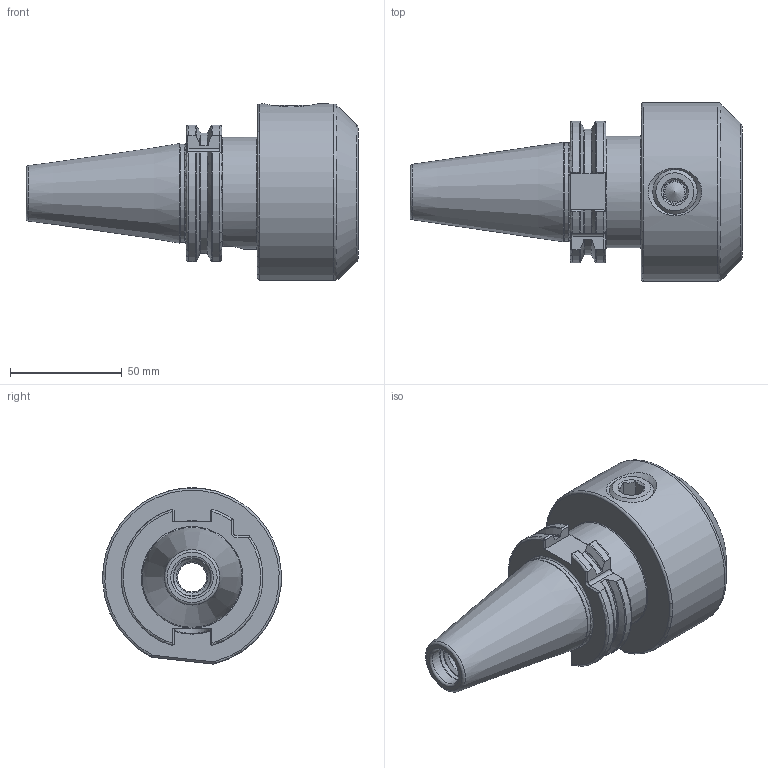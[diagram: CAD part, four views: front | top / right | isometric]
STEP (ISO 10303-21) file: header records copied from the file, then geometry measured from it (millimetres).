
FILE_DESCRIPTION(/* description */ (''),/* implementation_level */ '2;1');
FILE_NAME(/* name */ 'I:\00.2022最新版图纸\SLA---侧固式铣刀柄\侧固刀柄三维模型\SK40-SLA40-80.stp',/* time_stamp */ '2022-07-26T14:02:30+08:00',/* author */ ('Administrator'),/* organization */ (''),/* preprocessor_version */ 'ST-DEVELOPER v18.1',/* originating_system */ 'Autodesk Inventor 2022',/* authorisation */ '');
FILE_SCHEMA (('AUTOMOTIVE_DESIGN { 1 0 10303 214 3 1 1 }'));
Length unit declared in the file: millimetre
Products named in the file (3): SK40-SLA40-80; SK40-SLA40-80_1; M20x2x20
Assembly tree (2 placements, depth 2):
  SK40-SLA40-80
    SK40-SLA40-80_1
    M20x2x20
Bounding box: 148.4 x 79.83 x 78.79 mm (x, y, z)
Volume: 252423.6 mm3; surface area: 49383.8 mm2
Topology: 2 solids, 2 shells, 153 faces, 401 edges, 254 vertices
Faces by surface type: plane 59, torus 28, cylinder 25, cone 23, bspline 18
Full cylindrical faces by diameter (mm): 9 x1, 10 x1, 13 x1, 14 x1, 17 x1, 17.6 x1, 18 x1, 20 x1, 20.5 x1, 40 x1, 41 x1, 43.85 x1, 50 x1
Entity records: 5796 total; most frequent: CARTESIAN_POINT 2134, ORIENTED_EDGE 794, DIRECTION 689, EDGE_CURVE 397, AXIS2_PLACEMENT_3D 263, VERTEX_POINT 254, EDGE_LOOP 163, LINE 163
